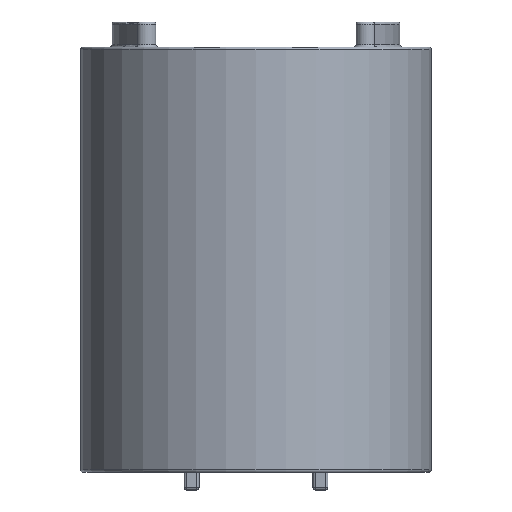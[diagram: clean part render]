
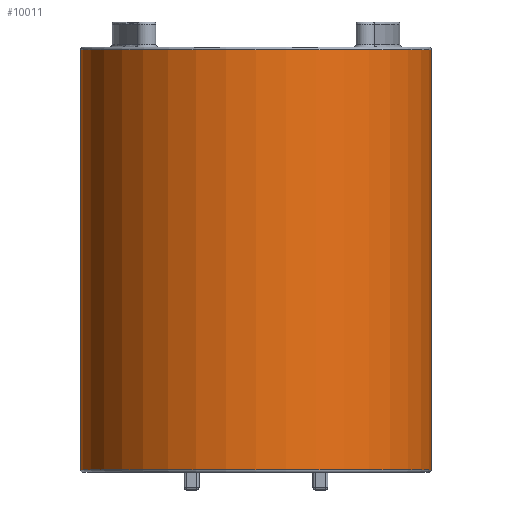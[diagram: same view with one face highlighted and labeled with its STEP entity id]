
A CAD part, front view. The second image highlights one B-rep face of the part: STEP entity #10011.
In plain terms, the highlighted cylindrical face has radius 14 mm (diameter 28 mm), a partial arc.
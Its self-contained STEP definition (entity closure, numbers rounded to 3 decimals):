
#600 = AXIS2_PLACEMENT_3D ( 'NONE', #4812, #19053, #6859 ) ;
#1098 = EDGE_LOOP ( 'NONE', ( #11564, #16400, #9724, #4247 ) ) ;
#1832 = CARTESIAN_POINT ( 'NONE',  ( 0., 0., 16.8 ) ) ;
#1902 = VERTEX_POINT ( 'NONE', #22988 ) ;
#3206 = EDGE_CURVE ( 'NONE', #20373, #7010, #17403, .T. ) ;
#3886 = DIRECTION ( 'NONE',  ( -1., 0., 0. ) ) ;
#3931 = VECTOR ( 'NONE', #7025, 1000. ) ;
#4247 = ORIENTED_EDGE ( 'NONE', *, *, #13722, .T. ) ;
#4812 = CARTESIAN_POINT ( 'NONE',  ( 0., 0., -16.8 ) ) ;
#4849 = EDGE_CURVE ( 'NONE', #20373, #15687, #6892, .T. ) ;
#4990 = AXIS2_PLACEMENT_3D ( 'NONE', #1832, #16112, #3886 ) ;
#6859 = DIRECTION ( 'NONE',  ( -1., 0., 0. ) ) ;
#6892 = CIRCLE ( 'NONE', #4990, 14. ) ;
#7010 = VERTEX_POINT ( 'NONE', #7829 ) ;
#7025 = DIRECTION ( 'NONE',  ( 0., 0., -1. ) ) ;
#7829 = CARTESIAN_POINT ( 'NONE',  ( 14., 0., -16.8 ) ) ;
#8340 = CARTESIAN_POINT ( 'NONE',  ( -14., 0., 16.8 ) ) ;
#8618 = DIRECTION ( 'NONE',  ( -1., 0., 0. ) ) ;
#9077 = CARTESIAN_POINT ( 'NONE',  ( -14., 0., 17. ) ) ;
#9724 = ORIENTED_EDGE ( 'NONE', *, *, #24492, .T. ) ;
#10011 = ADVANCED_FACE ( 'NONE', ( #24318 ), #11570, .T. ) ;
#10522 = DIRECTION ( 'NONE',  ( 0., 0., -1. ) ) ;
#10794 = CARTESIAN_POINT ( 'NONE',  ( 14., 0., 16.8 ) ) ;
#11564 = ORIENTED_EDGE ( 'NONE', *, *, #3206, .F. ) ;
#11570 = CYLINDRICAL_SURFACE ( 'NONE', #23933, 14. ) ;
#12060 = VECTOR ( 'NONE', #21936, 1000. ) ;
#12696 = CARTESIAN_POINT ( 'NONE',  ( 0., 0., 17. ) ) ;
#13722 = EDGE_CURVE ( 'NONE', #1902, #7010, #23276, .T. ) ;
#15687 = VERTEX_POINT ( 'NONE', #8340 ) ;
#16112 = DIRECTION ( 'NONE',  ( 0., 0., -1. ) ) ;
#16400 = ORIENTED_EDGE ( 'NONE', *, *, #4849, .T. ) ;
#17403 = LINE ( 'NONE', #17491, #12060 ) ;
#17491 = CARTESIAN_POINT ( 'NONE',  ( 14., 0., 17. ) ) ;
#19053 = DIRECTION ( 'NONE',  ( 0., 0., 1. ) ) ;
#20373 = VERTEX_POINT ( 'NONE', #10794 ) ;
#21936 = DIRECTION ( 'NONE',  ( 0., 0., -1. ) ) ;
#22988 = CARTESIAN_POINT ( 'NONE',  ( -14., 0., -16.8 ) ) ;
#23276 = CIRCLE ( 'NONE', #600, 14. ) ;
#23933 = AXIS2_PLACEMENT_3D ( 'NONE', #12696, #10522, #8618 ) ;
#24318 = FACE_OUTER_BOUND ( 'NONE', #1098, .T. ) ;
#24492 = EDGE_CURVE ( 'NONE', #15687, #1902, #24998, .T. ) ;
#24998 = LINE ( 'NONE', #9077, #3931 ) ;
